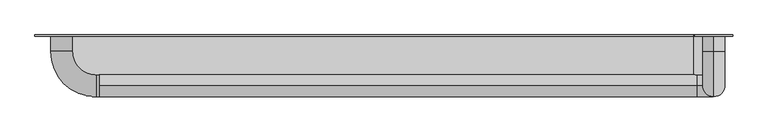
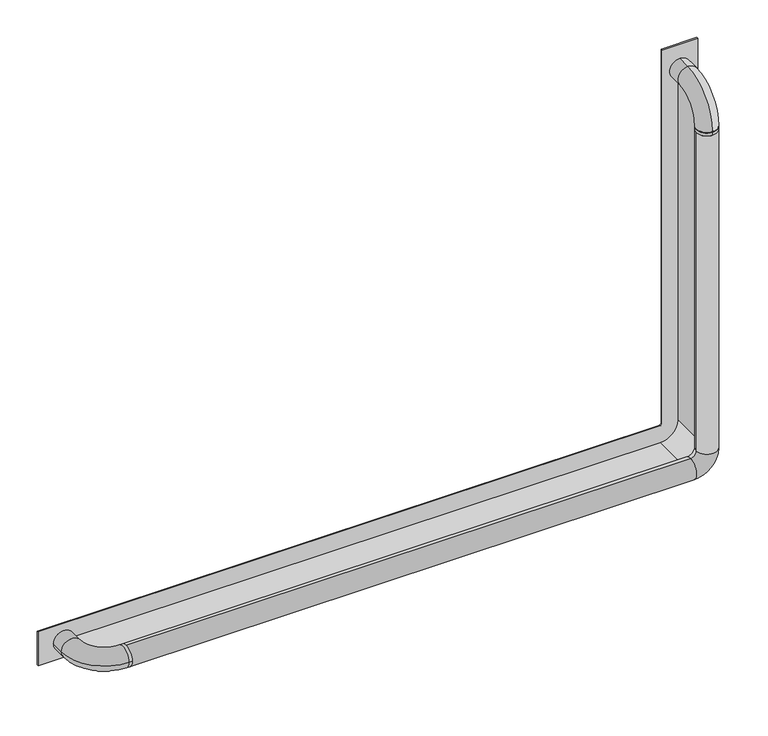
"""IFC4 building model written with IfcOpenShell, lengths in millimetres: proxy geometry, Grab Rail_Metlam_90 Deg_Anti Ligature_Left : 982w x 90d x 632d (MLR103_AL)."""

from ifc_helpers import new_model, si_unit, point, frame, frame_2d, origin, place, context, project, spatial, polyline, circle_curve, ellipse_curve, trimmed, segment, composite_curve, outline, extrude, source, transform, mapped, element, save
from ifc_brep_helpers import plane_surface, cylinder_surface, revolved_surface, advanced_brep


def specialty_equipment_c671b277(model_context):
    return source(origin(), model_context, "Body", "SolidModel", [
        extrude(outline(composite_curve([segment(polyline([(784.0, -336.0), (782.0, -336.0), (782.0, 584.0)]), True, "CONTINUOUS"), segment(trimmed(circle_curve(frame_2d((811.5, 584.0)), 29.5), [point((782.0, 584.0))], [point((811.5, 613.5))], False, "CARTESIAN"), True, "CONTINUOUS"), segment(polyline([(811.5, 613.5), (1384.0, 613.5), (1384.0, 611.5), (811.5, 611.5)]), True, "CONTINUOUS"), segment(trimmed(circle_curve(frame_2d((811.5, 584.0)), 27.5), [point((811.5, 611.5))], [point((784.0, 584.0))], True, "CARTESIAN"), True, "CONTINUOUS"), segment(polyline([(784.0, 584.0), (784.0, -336.0)]), True, "CONTINUOUS")], self_intersect=False)), frame((0.0, -58.1965194, 0.0), z_axis=(0.0, 1.0, 0.0), x_axis=(0.0, 0.0, 1.0)), (0.0, 0.0, 1.0), 56.1965194),
        extrude(outline(composite_curve([segment(polyline([(811.5, -375.0), (756.5, -375.0), (756.5, 584.0)]), True, "CONTINUOUS"), segment(trimmed(circle_curve(frame_2d((814.0, 584.0)), 57.5), [point((756.5, 584.0))], [point((814.0, 641.5))], False, "CARTESIAN"), True, "CONTINUOUS"), segment(polyline([(814.0, 641.5), (1423.0000618, 641.5), (1423.0000618, 586.5), (814.0, 586.5)]), True, "CONTINUOUS"), segment(trimmed(circle_curve(frame_2d((814.0, 584.0)), 2.5), [point((814.0, 586.5))], [point((811.5, 584.0))], True, "CARTESIAN"), True, "CONTINUOUS"), segment(polyline([(811.5, 584.0), (811.5, -375.0)]), True, "CONTINUOUS")], self_intersect=False)), frame((0.0, -2.0, 0.0), z_axis=(0.0, 1.0, 0.0), x_axis=(0.0, 0.0, 1.0)), (0.0, 0.0, 1.0), 2.0),
        advanced_brep(
        [(-286.0, -58.0, 784.0), (-320.0, -24.0, 784.0), (-352.0, -24.0, 784.0), (-286.0, -90.0, 784.0), (-281.0, -90.0, 784.0), (-281.0, -74.0, 800.0), (-281.0, -58.0, 784.0), (-281.0, -74.0, 768.0), (-352.0, 0.0, 784.0), (-320.0, 0.0, 784.0), (589.0, -74.0, 768.0), (589.0, -74.0, 800.0), (630.0, -74.0, 809.0), (598.0, -74.0, 809.0), (630.0, -74.0, 1327.7133711), (614.0, -90.0, 1327.7133711), (598.0, -74.0, 1327.7133711), (614.0, -58.0, 1327.7133711), (614.0, 0.0, 1400.0), (614.0, 0.0, 1368.0), (614.0, -24.0, 1400.0), (614.0, -24.0, 1368.0), (614.0, -90.0, 1334.0), (614.0, -58.0, 1334.0), (614.0, -90.0, 1332.7133711), (614.0, -58.0, 1332.7133711)],
        [
            (0, 1, circle_curve(frame((-286.0, -24.0, 784.0), z_axis=(0.0, 0.0, -1.0), x_axis=(-1.0, 0.0, 0.0)), 34.0)),
            (1, 2, circle_curve(frame((-336.0, -24.0, 784.0), z_axis=(0.0, -1.0, 0.0), x_axis=(1.0, 0.0, 0.0)), 16.0)),
            (2, 3, circle_curve(frame((-286.0, -24.0, 784.0), z_axis=(0.0, 0.0, 1.0), x_axis=(-1.0, 0.0, 0.0)), 66.0)),
            (3, 0, circle_curve(frame((-286.0, -74.0, 784.0), z_axis=(-1.0, 0.0, 0.0), x_axis=(0.0, 1.0, 0.0)), 16.0)),
            (0, 3, circle_curve(frame((-286.0, -74.0, 784.0), z_axis=(-1.0, 0.0, 0.0), x_axis=(0.0, 1.0, 0.0)), 16.0)),
            (2, 1, circle_curve(frame((-336.0, -24.0, 784.0), z_axis=(0.0, -1.0, 0.0), x_axis=(1.0, 0.0, 0.0)), 16.0)),
            (3, 4),
            (4, 5, circle_curve(frame((-281.0, -74.0, 784.0), z_axis=(-1.0, 0.0, 0.0), x_axis=(0.0, 1.0, 0.0)), 16.0)),
            (5, 6, circle_curve(frame((-281.0, -74.0, 784.0), z_axis=(-1.0, 0.0, 0.0), x_axis=(0.0, 1.0, 0.0)), 16.0)),
            (6, 0),
            (6, 7, circle_curve(frame((-281.0, -74.0, 784.0), z_axis=(-1.0, 0.0, 0.0), x_axis=(0.0, 1.0, 0.0)), 16.0)),
            (7, 4, circle_curve(frame((-281.0, -74.0, 784.0), z_axis=(-1.0, 0.0, 0.0), x_axis=(0.0, 1.0, 0.0)), 16.0)),
            (8, 9, circle_curve(frame((-336.0, 0.0, 784.0), z_axis=(0.0, 1.0, 0.0), x_axis=(1.0, 0.0, 0.0)), 16.0)),
            (9, 8, circle_curve(frame((-336.0, 0.0, 784.0), z_axis=(0.0, 1.0, 0.0), x_axis=(1.0, 0.0, 0.0)), 16.0)),
            (1, 9),
            (8, 2),
            (7, 10),
            (10, 11, circle_curve(frame((589.0, -74.0, 784.0), z_axis=(-1.0, 0.0, 0.0), x_axis=(0.0, 0.0, 1.0)), 16.0)),
            (11, 5),
            (11, 10, circle_curve(frame((589.0, -74.0, 784.0), z_axis=(-1.0, 0.0, 0.0), x_axis=(0.0, 0.0, 1.0)), 16.0)),
            (10, 12, circle_curve(frame((589.0, -74.0, 809.0), z_axis=(0.0, -1.0, 0.0), x_axis=(0.0, 0.0, -1.0)), 41.0)),
            (12, 13, circle_curve(frame((614.0, -74.0, 809.0), z_axis=(0.0, 0.0, -1.0), x_axis=(-1.0, 0.0, 0.0)), 16.0)),
            (13, 11, circle_curve(frame((589.0, -74.0, 809.0), z_axis=(0.0, 1.0, 0.0), x_axis=(0.0, 0.0, -1.0)), 9.0)),
            (13, 12, circle_curve(frame((614.0, -74.0, 809.0), z_axis=(0.0, 0.0, -1.0), x_axis=(-1.0, 0.0, 0.0)), 16.0)),
            (12, 14),
            (14, 15, circle_curve(frame((614.0, -74.0, 1327.7133711), z_axis=(0.0, 0.0, -1.0), x_axis=(-1.0, 0.0, 0.0)), 16.0)),
            (15, 16, circle_curve(frame((614.0, -74.0, 1327.7133711), z_axis=(0.0, 0.0, -1.0), x_axis=(-1.0, 0.0, 0.0)), 16.0)),
            (16, 13),
            (16, 17, circle_curve(frame((614.0, -74.0, 1327.7133711), z_axis=(0.0, 0.0, -1.0), x_axis=(-1.0, 0.0, 0.0)), 16.0)),
            (17, 14, circle_curve(frame((614.0, -74.0, 1327.7133711), z_axis=(0.0, 0.0, -1.0), x_axis=(-1.0, 0.0, 0.0)), 16.0)),
            (18, 19, circle_curve(frame((614.0, 0.0, 1384.0), z_axis=(0.0, 1.0, 0.0), x_axis=(0.0, 0.0, -1.0)), 16.0)),
            (19, 18, circle_curve(frame((614.0, 0.0, 1384.0), z_axis=(0.0, 1.0, 0.0), x_axis=(0.0, 0.0, -1.0)), 16.0)),
            (18, 20),
            (20, 21, circle_curve(frame((614.0, -24.0, 1384.0), z_axis=(0.0, 1.0, 0.0), x_axis=(0.0, 0.0, -1.0)), 16.0)),
            (21, 19),
            (21, 20, circle_curve(frame((614.0, -24.0, 1384.0), z_axis=(0.0, 1.0, 0.0), x_axis=(0.0, 0.0, -1.0)), 16.0)),
            (20, 22, circle_curve(frame((614.0, -24.0, 1334.0), z_axis=(1.0, 0.0, 0.0), x_axis=(0.0, 0.0, 1.0)), 66.0)),
            (22, 23, circle_curve(frame((614.0, -74.0, 1334.0), z_axis=(0.0, 0.0, 1.0), x_axis=(0.0, 1.0, 0.0)), 16.0)),
            (23, 21, circle_curve(frame((614.0, -24.0, 1334.0), z_axis=(-1.0, 0.0, 0.0), x_axis=(0.0, 0.0, 1.0)), 34.0)),
            (23, 22, circle_curve(frame((614.0, -74.0, 1334.0), z_axis=(0.0, 0.0, 1.0), x_axis=(0.0, 1.0, 0.0)), 16.0)),
            (22, 24),
            (24, 25, circle_curve(frame((614.0, -74.0, 1332.7133711), z_axis=(0.0, 0.0, 1.0), x_axis=(0.0, 1.0, 0.0)), 16.0)),
            (25, 23),
            (25, 24, circle_curve(frame((614.0, -74.0, 1332.7133711), z_axis=(0.0, 0.0, 1.0), x_axis=(0.0, 1.0, 0.0)), 16.0)),
            (24, 15),
            (17, 25),
        ],
        [
            revolved_surface(trimmed(ellipse_curve(frame((-336.0, -24.0, 784.0), z_axis=(0.0, 1.0, 0.0), x_axis=(1.0, 0.0, 0.0)), 16.0, 16.0), [point((-352.0, -24.0, 784.0))], [point((-320.0, -24.0, 784.0))], True, "CARTESIAN"), (-286.0, -24.0, 784.0), (0.0, 0.0, 1.0)),
            revolved_surface(trimmed(ellipse_curve(frame((-336.0, -24.0, 784.0), z_axis=(0.0, 1.0, 0.0), x_axis=(1.0, 0.0, 0.0)), 16.0, 16.0), [point((-320.0, -24.0, 784.0))], [point((-352.0, -24.0, 784.0))], True, "CARTESIAN"), (-286.0, -24.0, 784.0), (0.0, 0.0, 1.0)),
            cylinder_surface(frame((-286.0, -74.0, 784.0), z_axis=(-1.0, 0.0, 0.0), x_axis=(0.0, 1.0, 0.0)), 16.0),
            plane_surface(frame((-336.0, 0.0, 784.0), z_axis=(0.0, 1.0, 0.0), x_axis=(0.0, 0.0, 1.0))),
            cylinder_surface(frame((-336.0, 0.0, 784.0), z_axis=(0.0, 1.0, 0.0), x_axis=(1.0, 0.0, 0.0)), 16.0),
            cylinder_surface(frame((-281.0, -74.0, 784.0), z_axis=(-1.0, 0.0, 0.0), x_axis=(0.0, 0.0, 1.0)), 16.0),
            revolved_surface(trimmed(ellipse_curve(frame((589.0, -74.0, 784.0), z_axis=(-1.0, 0.0, 0.0), x_axis=(0.0, 0.0, 1.0)), 16.0, 16.0), [point((589.0, -74.0, 768.0))], [point((589.0, -74.0, 800.0))], True, "CARTESIAN"), (589.0, 0.0, 809.0), (0.0, -1.0, 0.0)),
            revolved_surface(trimmed(ellipse_curve(frame((589.0, -74.0, 784.0), z_axis=(-1.0, 0.0, 0.0), x_axis=(0.0, 0.0, 1.0)), 16.0, 16.0), [point((589.0, -74.0, 800.0))], [point((589.0, -74.0, 768.0))], True, "CARTESIAN"), (589.0, 0.0, 809.0), (0.0, -1.0, 0.0)),
            cylinder_surface(frame((614.0, -74.0, 809.0), z_axis=(0.0, 0.0, -1.0), x_axis=(-1.0, 0.0, 0.0)), 16.0),
            plane_surface(frame((614.0, 0.0, 1384.0), z_axis=(0.0, 1.0, 0.0), x_axis=(1.0, 0.0, 0.0))),
            cylinder_surface(frame((614.0, 0.0, 1384.0), z_axis=(0.0, 1.0, 0.0), x_axis=(0.0, 0.0, -1.0)), 16.0),
            revolved_surface(trimmed(ellipse_curve(frame((614.0, -24.0, 1384.0), z_axis=(0.0, 1.0, 0.0), x_axis=(0.0, 0.0, -1.0)), 16.0, 16.0), [point((614.0, -24.0, 1400.0))], [point((614.0, -24.0, 1368.0))], True, "CARTESIAN"), (614.0, -24.0, 1334.0), (1.0, 0.0, 0.0)),
            revolved_surface(trimmed(ellipse_curve(frame((614.0, -24.0, 1384.0), z_axis=(0.0, 1.0, 0.0), x_axis=(0.0, 0.0, -1.0)), 16.0, 16.0), [point((614.0, -24.0, 1368.0))], [point((614.0, -24.0, 1400.0))], True, "CARTESIAN"), (614.0, -24.0, 1334.0), (1.0, 0.0, 0.0)),
            cylinder_surface(frame((614.0, -74.0, 1334.0), z_axis=(0.0, 0.0, 1.0), x_axis=(0.0, 1.0, 0.0)), 16.0),
            cylinder_surface(frame((614.0, -74.0, 1332.7133711), z_axis=(0.0, 0.0, 1.0), x_axis=(0.0, 1.0, 0.0)), 16.0),
        ],
        [
            (0, [[1, 2, 3, 4]]),
            (1, [[-1, 5, -3, 6]]),
            (2, [[-4, 7, 8, 9, 10]]),
            (2, [[-5, -10, 11, 12, -7]]),
            (3, [[13, 14]]),
            (4, [[-2, 15, -13, 16]]),
            (4, [[-6, -16, -14, -15]]),
            (5, [[17, 18, 19, -8, -12]]),
            (5, [[-17, -11, -9, -19, 20]]),
            (6, [[-18, 21, 22, 23]]),
            (7, [[-20, -23, 24, -21]]),
            (8, [[-22, 25, 26, 27, 28]]),
            (8, [[-24, -28, 29, 30, -25]]),
            (9, [[31, 32]]),
            (10, [[-31, 33, 34, 35]]),
            (10, [[-32, -35, 36, -33]]),
            (11, [[-34, 37, 38, 39]]),
            (12, [[-36, -39, 40, -37]]),
            (13, [[-38, 41, 42, 43]]),
            (13, [[-40, -43, 44, -41]]),
            (14, [[-42, 45, -26, -30, 46]]),
            (14, [[-44, -46, -29, -27, -45]]),
        ],
    ),
    ])


if __name__ == "__main__":
    model = new_model("IFC4")
    model_context = context("Model", 3, world=origin())
    ifc_project = project(units=[si_unit("LENGTHUNIT", "METRE", prefix="MILLI")], contexts=[model_context])
    site = spatial("IfcSite", under=ifc_project)
    building = spatial("IfcBuilding", under=site)
    placement = place(None, origin())
    specialty_equipment_shape = specialty_equipment_c671b277(model_context)
    element("IfcBuildingElementProxy", 1, Name="Grab Rail_Metlam_90 Deg_Anti Ligature_Left : 982w x 90d x 632d (MLR103_AL)", ObjectType="Grab Rail_Metlam_90 Deg_Anti Ligature_Left : 982w x 90d x 632d (MLR103_AL)", at=placement, inside=building, context=model_context, shape_type="MappedRepresentation", body=[
        mapped(specialty_equipment_shape, transform((0.0, 0.0, 0.0), x_axis=(1.0, 0.0, 0.0), y_axis=(0.0, 1.0, 0.0), z_axis=(0.0, 0.0, 1.0))),
    ])
    save(model, "model.ifc")
